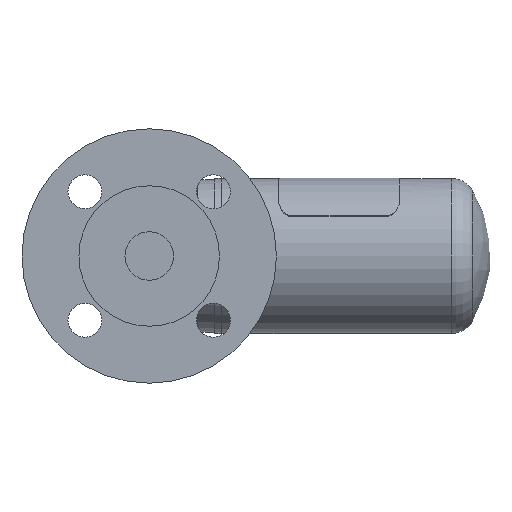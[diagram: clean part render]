
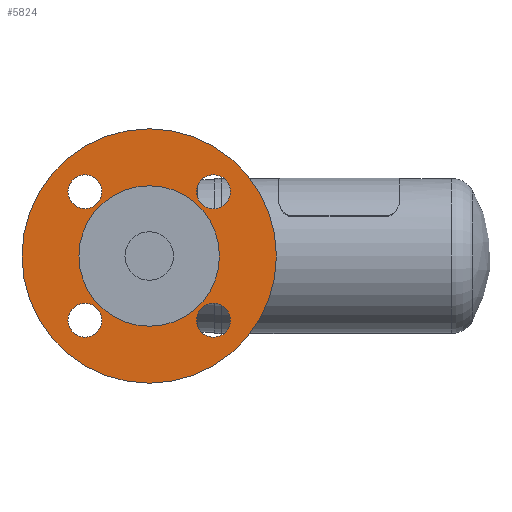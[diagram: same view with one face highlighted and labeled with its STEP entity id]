
A CAD part, left-side view. The second image highlights one B-rep face of the part: STEP entity #5824.
In plain terms, the highlighted planar face has unit normal (-1, 0, 0).
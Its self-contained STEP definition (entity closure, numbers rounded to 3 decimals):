
#178=FACE_BOUND('',#1053,.T.);
#179=FACE_BOUND('',#1054,.T.);
#180=FACE_BOUND('',#1055,.T.);
#181=FACE_BOUND('',#1056,.T.);
#182=FACE_BOUND('',#1057,.T.);
#352=PLANE('',#6177);
#675=FACE_OUTER_BOUND('',#1052,.T.);
#1052=EDGE_LOOP('',(#5438));
#1053=EDGE_LOOP('',(#5439));
#1054=EDGE_LOOP('',(#5440));
#1055=EDGE_LOOP('',(#5441));
#1056=EDGE_LOOP('',(#5442));
#1057=EDGE_LOOP('',(#5443));
#1276=CIRCLE('',#5860,7.);
#1278=CIRCLE('',#5863,7.);
#1280=CIRCLE('',#5866,7.);
#1284=CIRCLE('',#5873,7.);
#1286=CIRCLE('',#5876,52.5);
#1289=CIRCLE('',#5880,29.);
#2425=VERTEX_POINT('',#7439);
#2427=VERTEX_POINT('',#7445);
#2429=VERTEX_POINT('',#7451);
#2433=VERTEX_POINT('',#7464);
#2435=VERTEX_POINT('',#7470);
#2438=VERTEX_POINT('',#7478);
#2972=EDGE_CURVE('',#2425,#2425,#1276,.T.);
#2975=EDGE_CURVE('',#2427,#2427,#1278,.T.);
#2978=EDGE_CURVE('',#2429,#2429,#1280,.T.);
#2984=EDGE_CURVE('',#2433,#2433,#1284,.T.);
#2987=EDGE_CURVE('',#2435,#2435,#1286,.T.);
#2992=EDGE_CURVE('',#2438,#2438,#1289,.T.);
#5438=ORIENTED_EDGE('',*,*,#2987,.F.);
#5439=ORIENTED_EDGE('',*,*,#2972,.T.);
#5440=ORIENTED_EDGE('',*,*,#2975,.T.);
#5441=ORIENTED_EDGE('',*,*,#2978,.T.);
#5442=ORIENTED_EDGE('',*,*,#2984,.T.);
#5443=ORIENTED_EDGE('',*,*,#2992,.T.);
#5824=ADVANCED_FACE('',(#675,#178,#179,#180,#181,#182),#352,.F.);
#5860=AXIS2_PLACEMENT_3D('',#7440,#6204,#6205);
#5863=AXIS2_PLACEMENT_3D('',#7446,#6211,#6212);
#5866=AXIS2_PLACEMENT_3D('',#7452,#6218,#6219);
#5873=AXIS2_PLACEMENT_3D('',#7465,#6234,#6235);
#5876=AXIS2_PLACEMENT_3D('',#7471,#6241,#6242);
#5880=AXIS2_PLACEMENT_3D('',#7480,#6251,#6252);
#6177=AXIS2_PLACEMENT_3D('',#10816,#7352,#7353);
#6204=DIRECTION('center_axis',(1.,0.,0.));
#6205=DIRECTION('ref_axis',(0.,1.,0.));
#6211=DIRECTION('center_axis',(1.,0.,0.));
#6212=DIRECTION('ref_axis',(0.,0.,-1.));
#6218=DIRECTION('center_axis',(1.,0.,0.));
#6219=DIRECTION('ref_axis',(0.,-1.,0.));
#6234=DIRECTION('center_axis',(1.,0.,0.));
#6235=DIRECTION('ref_axis',(0.,0.,1.));
#6241=DIRECTION('center_axis',(1.,0.,0.));
#6242=DIRECTION('ref_axis',(0.,0.,1.));
#6251=DIRECTION('center_axis',(1.,0.,0.));
#6252=DIRECTION('ref_axis',(0.,-1.,0.));
#7352=DIRECTION('center_axis',(1.,0.,0.));
#7353=DIRECTION('ref_axis',(0.,0.,1.));
#7439=CARTESIAN_POINT('',(-124.792,64.029,-26.517));
#7440=CARTESIAN_POINT('Origin',(-124.792,71.029,-26.517));
#7445=CARTESIAN_POINT('',(-124.792,71.029,33.517));
#7446=CARTESIAN_POINT('Origin',(-124.792,71.029,26.517));
#7451=CARTESIAN_POINT('',(-124.792,131.062,26.517));
#7452=CARTESIAN_POINT('Origin',(-124.792,124.062,26.517));
#7464=CARTESIAN_POINT('',(-124.792,124.062,-33.517));
#7465=CARTESIAN_POINT('Origin',(-124.792,124.062,-26.517));
#7470=CARTESIAN_POINT('',(-124.792,150.045,0.));
#7471=CARTESIAN_POINT('Origin',(-124.792,97.545,0.));
#7478=CARTESIAN_POINT('',(-124.792,126.545,0.));
#7480=CARTESIAN_POINT('Origin',(-124.792,97.545,0.));
#10816=CARTESIAN_POINT('Origin',(-124.792,75.045,0.));
